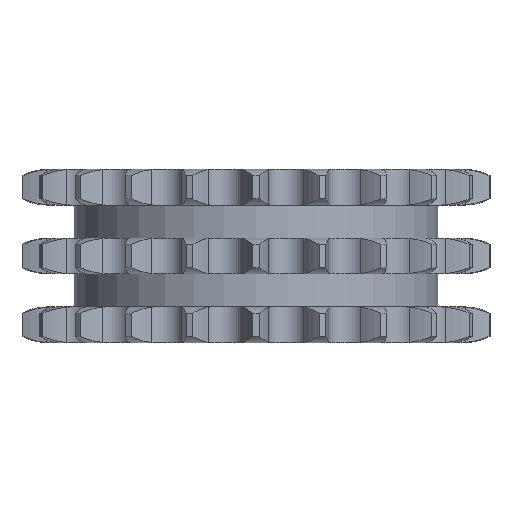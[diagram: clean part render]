
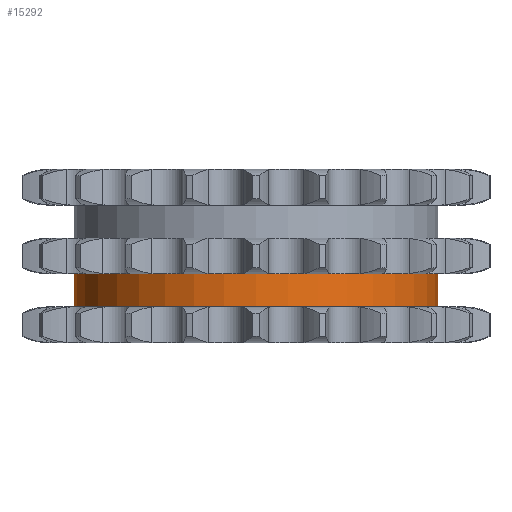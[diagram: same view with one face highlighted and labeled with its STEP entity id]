
A CAD part, left-side view. The second image highlights one B-rep face of the part: STEP entity #15292.
In plain terms, the highlighted cylindrical face has radius 36.619 mm (diameter 73.239 mm), a partial arc.
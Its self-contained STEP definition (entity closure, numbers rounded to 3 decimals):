
#1946=DIRECTION('',(0.,0.,-1.));
#1947=VECTOR('',#1946,6.65);
#1948=CARTESIAN_POINT('',(0.,36.619,-3.6));
#1949=LINE('',#1948,#1947);
#1953=CARTESIAN_POINT('',(0.,0.,-3.6));
#1954=DIRECTION('',(0.,0.,1.));
#1955=DIRECTION('',(0.,1.,0.));
#1956=AXIS2_PLACEMENT_3D('',#1953,#1954,#1955);
#1961=DIRECTION('',(0.,0.,-1.));
#1962=VECTOR('',#1961,6.65);
#1963=CARTESIAN_POINT('',(0.,-36.619,-3.6));
#1964=LINE('',#1963,#1962);
#1968=CARTESIAN_POINT('',(0.,0.,-10.25));
#1969=DIRECTION('',(0.,0.,1.));
#1970=DIRECTION('',(0.,1.,0.));
#1971=AXIS2_PLACEMENT_3D('',#1968,#1969,#1970);
#12428=CARTESIAN_POINT('',(0.,36.619,-3.6));
#12429=CARTESIAN_POINT('',(0.,36.619,-10.25));
#12430=VERTEX_POINT('',#12428);
#12431=VERTEX_POINT('',#12429);
#12432=CARTESIAN_POINT('',(0.,-36.619,-3.6));
#12433=CARTESIAN_POINT('',(0.,-36.619,-10.25));
#12434=VERTEX_POINT('',#12432);
#12435=VERTEX_POINT('',#12433);
#15280=CARTESIAN_POINT('',(0.,0.,11.275));
#15281=DIRECTION('',(0.,0.,-1.));
#15282=DIRECTION('',(0.,-1.,0.));
#15283=AXIS2_PLACEMENT_3D('',#15280,#15281,#15282);
#15284=CYLINDRICAL_SURFACE('',#15283,36.619);
#15285=ORIENTED_EDGE('',*,*,#15270,.F.);
#15286=ORIENTED_EDGE('',*,*,#15260,.T.);
#15287=ORIENTED_EDGE('',*,*,#15274,.T.);
#15289=ORIENTED_EDGE('',*,*,#15288,.F.);
#15290=EDGE_LOOP('',(#15285,#15286,#15287,#15289));
#15291=FACE_OUTER_BOUND('',#15290,.F.);
#15292=ADVANCED_FACE('',(#15291),#15284,.T.);
#1957=CIRCLE('',#1956,36.619);
#1972=CIRCLE('',#1971,36.619);
#15260=EDGE_CURVE('',#12430,#12434,#1957,.T.);
#15270=EDGE_CURVE('',#12430,#12431,#1949,.T.);
#15274=EDGE_CURVE('',#12434,#12435,#1964,.T.);
#15288=EDGE_CURVE('',#12431,#12435,#1972,.T.);
